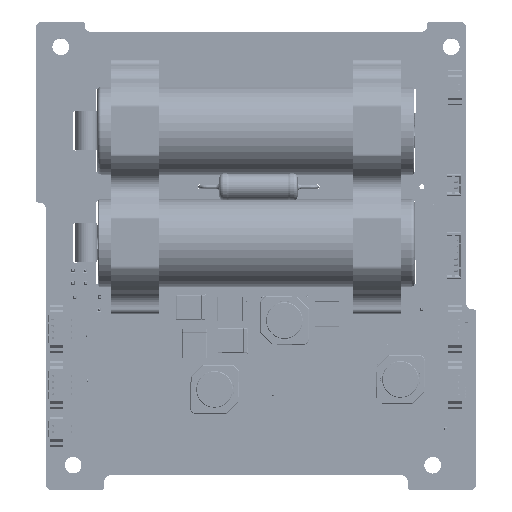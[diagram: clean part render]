
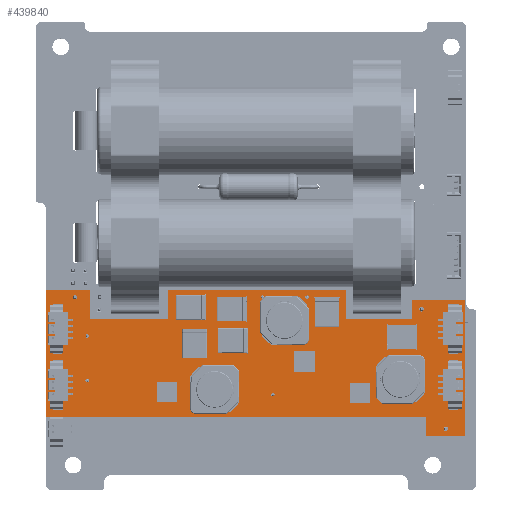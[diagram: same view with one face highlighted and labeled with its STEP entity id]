
A CAD part, top view. The second image highlights one B-rep face of the part: STEP entity #439840.
In plain terms, the highlighted planar face has unit normal (0, 0, 1).
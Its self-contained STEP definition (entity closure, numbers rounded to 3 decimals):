
#9527=CIRCLE('',#467451,0.456);
#9529=CIRCLE('',#467454,0.456);
#9531=CIRCLE('',#467457,0.456);
#9533=CIRCLE('',#467460,0.356);
#9535=CIRCLE('',#467463,0.356);
#9537=CIRCLE('',#467466,0.356);
#9539=CIRCLE('',#467469,0.356);
#9541=CIRCLE('',#467472,0.356);
#9543=CIRCLE('',#467475,0.356);
#78046=ORIENTED_EDGE('',*,*,#162855,.F.);
#78047=ORIENTED_EDGE('',*,*,#162853,.F.);
#78048=ORIENTED_EDGE('',*,*,#162851,.F.);
#78049=ORIENTED_EDGE('',*,*,#162849,.F.);
#78050=ORIENTED_EDGE('',*,*,#162847,.F.);
#78051=ORIENTED_EDGE('',*,*,#162845,.F.);
#78052=ORIENTED_EDGE('',*,*,#162843,.F.);
#78053=ORIENTED_EDGE('',*,*,#162841,.F.);
#78054=ORIENTED_EDGE('',*,*,#162839,.F.);
#78055=ORIENTED_EDGE('',*,*,#162798,.T.);
#78056=ORIENTED_EDGE('',*,*,#162802,.T.);
#78057=ORIENTED_EDGE('',*,*,#162805,.T.);
#78058=ORIENTED_EDGE('',*,*,#162808,.T.);
#78059=ORIENTED_EDGE('',*,*,#162811,.T.);
#78060=ORIENTED_EDGE('',*,*,#162814,.T.);
#78061=ORIENTED_EDGE('',*,*,#162817,.T.);
#78062=ORIENTED_EDGE('',*,*,#162820,.T.);
#78063=ORIENTED_EDGE('',*,*,#162823,.T.);
#78064=ORIENTED_EDGE('',*,*,#162826,.T.);
#78065=ORIENTED_EDGE('',*,*,#162829,.T.);
#78066=ORIENTED_EDGE('',*,*,#162832,.T.);
#78067=ORIENTED_EDGE('',*,*,#162835,.T.);
#78068=ORIENTED_EDGE('',*,*,#162837,.T.);
#162798=EDGE_CURVE('',#209656,#209655,#251039,.T.);
#162802=EDGE_CURVE('',#209655,#209658,#251043,.T.);
#162805=EDGE_CURVE('',#209658,#209660,#251046,.T.);
#162808=EDGE_CURVE('',#209660,#209662,#251049,.T.);
#162811=EDGE_CURVE('',#209662,#209664,#251052,.T.);
#162814=EDGE_CURVE('',#209664,#209666,#251055,.T.);
#162817=EDGE_CURVE('',#209666,#209668,#251058,.T.);
#162820=EDGE_CURVE('',#209668,#209670,#251061,.T.);
#162823=EDGE_CURVE('',#209670,#209672,#251064,.T.);
#162826=EDGE_CURVE('',#209672,#209674,#251067,.T.);
#162829=EDGE_CURVE('',#209674,#209676,#251070,.T.);
#162832=EDGE_CURVE('',#209676,#209678,#251073,.T.);
#162835=EDGE_CURVE('',#209678,#209680,#251076,.T.);
#162837=EDGE_CURVE('',#209680,#209656,#251078,.T.);
#162839=EDGE_CURVE('',#209682,#209682,#9527,.T.);
#162841=EDGE_CURVE('',#209684,#209684,#9529,.T.);
#162843=EDGE_CURVE('',#209686,#209686,#9531,.T.);
#162845=EDGE_CURVE('',#209688,#209688,#9533,.T.);
#162847=EDGE_CURVE('',#209690,#209690,#9535,.T.);
#162849=EDGE_CURVE('',#209692,#209692,#9537,.T.);
#162851=EDGE_CURVE('',#209694,#209694,#9539,.T.);
#162853=EDGE_CURVE('',#209696,#209696,#9541,.T.);
#162855=EDGE_CURVE('',#209698,#209698,#9543,.T.);
#209655=VERTEX_POINT('',#662750);
#209656=VERTEX_POINT('',#662752);
#209658=VERTEX_POINT('',#662758);
#209660=VERTEX_POINT('',#662764);
#209662=VERTEX_POINT('',#662770);
#209664=VERTEX_POINT('',#662776);
#209666=VERTEX_POINT('',#662782);
#209668=VERTEX_POINT('',#662788);
#209670=VERTEX_POINT('',#662794);
#209672=VERTEX_POINT('',#662800);
#209674=VERTEX_POINT('',#662806);
#209676=VERTEX_POINT('',#662812);
#209678=VERTEX_POINT('',#662818);
#209680=VERTEX_POINT('',#662824);
#209682=VERTEX_POINT('',#662833);
#209684=VERTEX_POINT('',#662838);
#209686=VERTEX_POINT('',#662843);
#209688=VERTEX_POINT('',#662848);
#209690=VERTEX_POINT('',#662853);
#209692=VERTEX_POINT('',#662858);
#209694=VERTEX_POINT('',#662863);
#209696=VERTEX_POINT('',#662868);
#209698=VERTEX_POINT('',#662873);
#251039=LINE('',#662751,#296772);
#251043=LINE('',#662759,#296776);
#251046=LINE('',#662765,#296779);
#251049=LINE('',#662771,#296782);
#251052=LINE('',#662777,#296785);
#251055=LINE('',#662783,#296788);
#251058=LINE('',#662789,#296791);
#251061=LINE('',#662795,#296794);
#251064=LINE('',#662801,#296797);
#251067=LINE('',#662807,#296800);
#251070=LINE('',#662813,#296803);
#251073=LINE('',#662819,#296806);
#251076=LINE('',#662825,#296809);
#251078=LINE('',#662828,#296811);
#296772=VECTOR('',#537899,1000.);
#296776=VECTOR('',#537905,1000.);
#296779=VECTOR('',#537910,1000.);
#296782=VECTOR('',#537915,1000.);
#296785=VECTOR('',#537920,1000.);
#296788=VECTOR('',#537925,1000.);
#296791=VECTOR('',#537930,1000.);
#296794=VECTOR('',#537935,1000.);
#296797=VECTOR('',#537940,1000.);
#296800=VECTOR('',#537945,1000.);
#296803=VECTOR('',#537950,1000.);
#296806=VECTOR('',#537955,1000.);
#296809=VECTOR('',#537960,1000.);
#296811=VECTOR('',#537964,1000.);
#330883=EDGE_LOOP('',(#78046));
#330884=EDGE_LOOP('',(#78047));
#330885=EDGE_LOOP('',(#78048));
#330886=EDGE_LOOP('',(#78049));
#330887=EDGE_LOOP('',(#78050));
#330888=EDGE_LOOP('',(#78051));
#330889=EDGE_LOOP('',(#78052));
#330890=EDGE_LOOP('',(#78053));
#330891=EDGE_LOOP('',(#78054));
#330892=EDGE_LOOP('',(#78055,#78056,#78057,#78058,#78059,#78060,#78061,
#78062,#78063,#78064,#78065,#78066,#78067,#78068));
#352732=FACE_BOUND('',#330883,.T.);
#352733=FACE_BOUND('',#330884,.T.);
#352734=FACE_BOUND('',#330885,.T.);
#352735=FACE_BOUND('',#330886,.T.);
#352736=FACE_BOUND('',#330887,.T.);
#352737=FACE_BOUND('',#330888,.T.);
#352738=FACE_BOUND('',#330889,.T.);
#352739=FACE_BOUND('',#330890,.T.);
#352740=FACE_BOUND('',#330891,.T.);
#352741=FACE_BOUND('',#330892,.T.);
#370729=PLANE('',#467476);
#439840=ADVANCED_FACE('',(#352732,#352733,#352734,#352735,#352736,#352737,
#352738,#352739,#352740,#352741),#370729,.T.);
#467451=AXIS2_PLACEMENT_3D('',#662832,#537969,#537970);
#467454=AXIS2_PLACEMENT_3D('',#662837,#537975,#537976);
#467457=AXIS2_PLACEMENT_3D('',#662842,#537981,#537982);
#467460=AXIS2_PLACEMENT_3D('',#662847,#537987,#537988);
#467463=AXIS2_PLACEMENT_3D('',#662852,#537993,#537994);
#467466=AXIS2_PLACEMENT_3D('',#662857,#537999,#538000);
#467469=AXIS2_PLACEMENT_3D('',#662862,#538005,#538006);
#467472=AXIS2_PLACEMENT_3D('',#662867,#538011,#538012);
#467475=AXIS2_PLACEMENT_3D('',#662872,#538017,#538018);
#467476=AXIS2_PLACEMENT_3D('',#662874,#538019,#538020);
#537899=DIRECTION('',(1.,0.,0.));
#537905=DIRECTION('',(0.,-1.,0.));
#537910=DIRECTION('',(1.,0.,0.));
#537915=DIRECTION('',(0.,1.,0.));
#537920=DIRECTION('',(-1.,0.,0.));
#537925=DIRECTION('',(0.,-1.,0.));
#537930=DIRECTION('',(-1.,0.,0.));
#537935=DIRECTION('',(0.,1.,0.));
#537940=DIRECTION('',(-1.,0.,0.));
#537945=DIRECTION('',(0.,-1.,0.));
#537950=DIRECTION('',(-1.,0.,0.));
#537955=DIRECTION('',(0.,1.,0.));
#537960=DIRECTION('',(-1.,0.,0.));
#537964=DIRECTION('',(0.,-1.,0.));
#537969=DIRECTION('',(0.,0.,1.));
#537970=DIRECTION('',(1.,0.,0.));
#537975=DIRECTION('',(0.,0.,1.));
#537976=DIRECTION('',(1.,0.,0.));
#537981=DIRECTION('',(0.,0.,1.));
#537982=DIRECTION('',(1.,0.,0.));
#537987=DIRECTION('',(0.,0.,1.));
#537988=DIRECTION('',(1.,0.,0.));
#537993=DIRECTION('',(0.,0.,1.));
#537994=DIRECTION('',(1.,0.,0.));
#537999=DIRECTION('',(0.,0.,1.));
#538000=DIRECTION('',(1.,0.,0.));
#538005=DIRECTION('',(0.,0.,1.));
#538006=DIRECTION('',(1.,0.,0.));
#538011=DIRECTION('',(0.,0.,1.));
#538012=DIRECTION('',(1.,0.,0.));
#538017=DIRECTION('',(0.,0.,1.));
#538018=DIRECTION('',(1.,0.,0.));
#538019=DIRECTION('',(0.,0.,1.));
#538020=DIRECTION('',(1.,0.,0.));
#662750=CARTESIAN_POINT('',(78.,4.,0.));
#662751=CARTESIAN_POINT('',(0.,4.,0.));
#662752=CARTESIAN_POINT('',(0.,4.,0.));
#662758=CARTESIAN_POINT('',(78.,0.,0.));
#662759=CARTESIAN_POINT('',(78.,4.,0.));
#662764=CARTESIAN_POINT('',(86.,0.,0.));
#662765=CARTESIAN_POINT('',(78.,0.,0.));
#662770=CARTESIAN_POINT('',(86.,28.,0.));
#662771=CARTESIAN_POINT('',(86.,0.,0.));
#662776=CARTESIAN_POINT('',(75.,28.,0.));
#662777=CARTESIAN_POINT('',(86.,28.,0.));
#662782=CARTESIAN_POINT('',(75.,24.,0.));
#662783=CARTESIAN_POINT('',(75.,28.,0.));
#662788=CARTESIAN_POINT('',(61.5,24.,0.));
#662789=CARTESIAN_POINT('',(75.,24.,0.));
#662794=CARTESIAN_POINT('',(61.5,30.,0.));
#662795=CARTESIAN_POINT('',(61.5,24.,0.));
#662800=CARTESIAN_POINT('',(25.,30.,0.));
#662801=CARTESIAN_POINT('',(61.5,30.,0.));
#662806=CARTESIAN_POINT('',(25.,24.,0.));
#662807=CARTESIAN_POINT('',(25.,30.,0.));
#662812=CARTESIAN_POINT('',(9.,24.,0.));
#662813=CARTESIAN_POINT('',(25.,24.,0.));
#662818=CARTESIAN_POINT('',(9.,30.,0.));
#662819=CARTESIAN_POINT('',(9.,24.,0.));
#662824=CARTESIAN_POINT('',(0.,30.,0.));
#662825=CARTESIAN_POINT('',(9.,30.,0.));
#662828=CARTESIAN_POINT('',(0.,30.,0.));
#662832=CARTESIAN_POINT('',(77.,26.,0.));
#662833=CARTESIAN_POINT('',(77.456,26.,0.));
#662837=CARTESIAN_POINT('',(6.,28.5,0.));
#662838=CARTESIAN_POINT('',(6.455,28.5,0.));
#662842=CARTESIAN_POINT('',(82.,1.5,0.));
#662843=CARTESIAN_POINT('',(82.456,1.5,0.));
#662847=CARTESIAN_POINT('',(53.55,28.5,0.));
#662848=CARTESIAN_POINT('',(53.905,28.5,0.));
#662852=CARTESIAN_POINT('',(44.45,28.5,0.));
#662853=CARTESIAN_POINT('',(44.806,28.5,0.));
#662857=CARTESIAN_POINT('',(8.5,11.45,0.));
#662858=CARTESIAN_POINT('',(8.855,11.45,0.));
#662862=CARTESIAN_POINT('',(8.5,20.55,0.));
#662863=CARTESIAN_POINT('',(8.855,20.55,0.));
#662867=CARTESIAN_POINT('',(37.45,8.5,0.));
#662868=CARTESIAN_POINT('',(37.805,8.5,0.));
#662872=CARTESIAN_POINT('',(46.55,8.5,0.));
#662873=CARTESIAN_POINT('',(46.905,8.5,0.));
#662874=CARTESIAN_POINT('',(0.,0.,0.));
